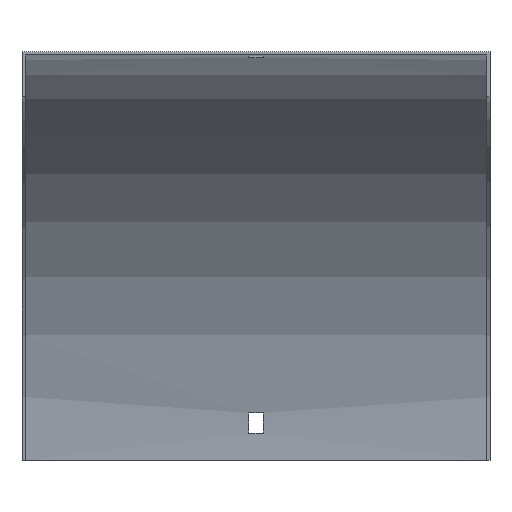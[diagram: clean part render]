
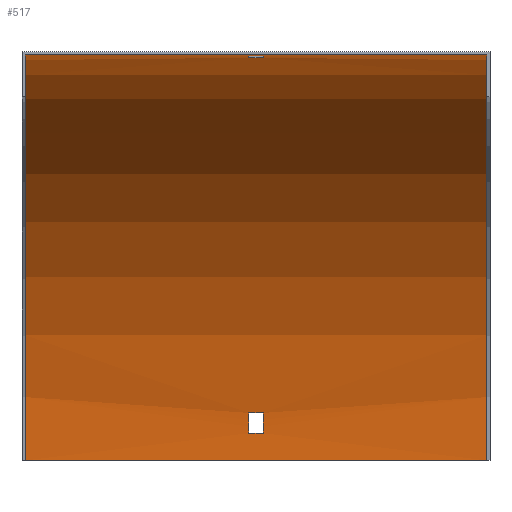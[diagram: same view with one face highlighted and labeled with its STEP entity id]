
A CAD part, top view. The second image highlights one B-rep face of the part: STEP entity #517.
In plain terms, the highlighted cylindrical face has radius 179 mm (diameter 358 mm), a partial arc.
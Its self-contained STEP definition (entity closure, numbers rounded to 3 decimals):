
#4 = VERTEX_POINT ( 'NONE', #291 ) ;
#5 = DIRECTION ( 'NONE',  ( -1., 0., 0. ) ) ;
#13 = CARTESIAN_POINT ( 'NONE',  ( 103.5, -2.736, -21. ) ) ;
#14 = DIRECTION ( 'NONE',  ( 1., 0., 0. ) ) ;
#20 = DIRECTION ( 'NONE',  ( 1., 0., 0. ) ) ;
#25 = EDGE_CURVE ( 'NONE', #247, #4, #342, .T. ) ;
#28 = EDGE_CURVE ( 'NONE', #585, #376, #283, .T. ) ;
#29 = CIRCLE ( 'NONE', #321, 179. ) ;
#36 = DIRECTION ( 'NONE',  ( 0., 0., -1. ) ) ;
#47 = DIRECTION ( 'NONE',  ( 0., 0., 1. ) ) ;
#53 = EDGE_CURVE ( 'NONE', #376, #247, #114, .T. ) ;
#64 = VERTEX_POINT ( 'NONE', #79 ) ;
#67 = CARTESIAN_POINT ( 'NONE',  ( -3.25, -1.903, -12. ) ) ;
#69 = VERTEX_POINT ( 'NONE', #67 ) ;
#70 = DIRECTION ( 'NONE',  ( 0., 0., -1. ) ) ;
#75 = ORIENTED_EDGE ( 'NONE', *, *, #410, .F. ) ;
#78 = ORIENTED_EDGE ( 'NONE', *, *, #583, .F. ) ;
#79 = CARTESIAN_POINT ( 'NONE',  ( 102., -180.5, -179. ) ) ;
#85 = EDGE_CURVE ( 'NONE', #345, #255, #543, .T. ) ;
#87 = ORIENTED_EDGE ( 'NONE', *, *, #28, .T. ) ;
#91 = EDGE_CURVE ( 'NONE', #534, #167, #312, .T. ) ;
#94 = LINE ( 'NONE', #591, #484 ) ;
#97 = FACE_OUTER_BOUND ( 'NONE', #443, .T. ) ;
#98 = CARTESIAN_POINT ( 'NONE',  ( -3.25, -168.5, -178.597 ) ) ;
#110 = AXIS2_PLACEMENT_3D ( 'NONE', #185, #132, #36 ) ;
#114 = LINE ( 'NONE', #257, #159 ) ;
#123 = EDGE_LOOP ( 'NONE', ( #536, #78, #288, #220 ) ) ;
#126 = AXIS2_PLACEMENT_3D ( 'NONE', #491, #20, #70 ) ;
#128 = VERTEX_POINT ( 'NONE', #276 ) ;
#130 = EDGE_CURVE ( 'NONE', #167, #128, #499, .T. ) ;
#132 = DIRECTION ( 'NONE',  ( 1., 0., 0. ) ) ;
#139 = EDGE_LOOP ( 'NONE', ( #161, #347, #168, #87 ) ) ;
#147 = EDGE_CURVE ( 'NONE', #69, #534, #169, .T. ) ;
#153 = DIRECTION ( 'NONE',  ( -1., 0., 0. ) ) ;
#159 = VECTOR ( 'NONE', #153, 1000. ) ;
#161 = ORIENTED_EDGE ( 'NONE', *, *, #53, .T. ) ;
#165 = DIRECTION ( 'NONE',  ( -1., 0., 0. ) ) ;
#167 = VERTEX_POINT ( 'NONE', #596 ) ;
#168 = ORIENTED_EDGE ( 'NONE', *, *, #248, .T. ) ;
#169 = CIRCLE ( 'NONE', #313, 179. ) ;
#175 = EDGE_CURVE ( 'NONE', #64, #345, #330, .T. ) ;
#177 = EDGE_CURVE ( 'NONE', #64, #357, #510, .T. ) ;
#180 = DIRECTION ( 'NONE',  ( -1., 0., 0. ) ) ;
#185 = CARTESIAN_POINT ( 'NONE',  ( 3.25, -180.5, 0. ) ) ;
#200 = CARTESIAN_POINT ( 'NONE',  ( -102., -180.5, 0. ) ) ;
#212 = CARTESIAN_POINT ( 'NONE',  ( 3.25, -180.5, 0. ) ) ;
#219 = LINE ( 'NONE', #407, #565 ) ;
#220 = ORIENTED_EDGE ( 'NONE', *, *, #91, .F. ) ;
#226 = CARTESIAN_POINT ( 'NONE',  ( 102., -180.5, 0. ) ) ;
#230 = CARTESIAN_POINT ( 'NONE',  ( 102., -180.5, -179. ) ) ;
#240 = ORIENTED_EDGE ( 'NONE', *, *, #175, .T. ) ;
#247 = VERTEX_POINT ( 'NONE', #98 ) ;
#248 = EDGE_CURVE ( 'NONE', #4, #585, #219, .T. ) ;
#250 = CARTESIAN_POINT ( 'NONE',  ( 3.25, -168.5, -178.597 ) ) ;
#253 = DIRECTION ( 'NONE',  ( -1., 0., 0. ) ) ;
#255 = VERTEX_POINT ( 'NONE', #317 ) ;
#257 = CARTESIAN_POINT ( 'NONE',  ( 103.5, -168.5, -178.597 ) ) ;
#258 = AXIS2_PLACEMENT_3D ( 'NONE', #212, #165, #496 ) ;
#273 = DIRECTION ( 'NONE',  ( -1., 0., 0. ) ) ;
#276 = CARTESIAN_POINT ( 'NONE',  ( 3.25, -1.903, -12. ) ) ;
#283 = CIRCLE ( 'NONE', #258, 179. ) ;
#288 = ORIENTED_EDGE ( 'NONE', *, *, #130, .F. ) ;
#291 = CARTESIAN_POINT ( 'NONE',  ( -3.25, -159.5, -177.764 ) ) ;
#294 = CARTESIAN_POINT ( 'NONE',  ( 102., -1.5, 0. ) ) ;
#312 = LINE ( 'NONE', #13, #507 ) ;
#313 = AXIS2_PLACEMENT_3D ( 'NONE', #462, #273, #47 ) ;
#317 = CARTESIAN_POINT ( 'NONE',  ( -102., -1.5, 0. ) ) ;
#321 = AXIS2_PLACEMENT_3D ( 'NONE', #200, #14, #382 ) ;
#323 = DIRECTION ( 'NONE',  ( -1., 0., 0. ) ) ;
#330 = CIRCLE ( 'NONE', #468, 179. ) ;
#336 = CARTESIAN_POINT ( 'NONE',  ( -102., -180.5, -179. ) ) ;
#342 = CIRCLE ( 'NONE', #126, 179. ) ;
#345 = VERTEX_POINT ( 'NONE', #294 ) ;
#347 = ORIENTED_EDGE ( 'NONE', *, *, #25, .T. ) ;
#357 = VERTEX_POINT ( 'NONE', #336 ) ;
#364 = ORIENTED_EDGE ( 'NONE', *, *, #177, .F. ) ;
#376 = VERTEX_POINT ( 'NONE', #250 ) ;
#382 = DIRECTION ( 'NONE',  ( 0., 0., 1. ) ) ;
#389 = DIRECTION ( 'NONE',  ( 1., 0., 0. ) ) ;
#397 = CARTESIAN_POINT ( 'NONE',  ( 102., -1.5, 0. ) ) ;
#401 = AXIS2_PLACEMENT_3D ( 'NONE', #424, #5, #514 ) ;
#407 = CARTESIAN_POINT ( 'NONE',  ( 103.5, -159.5, -177.764 ) ) ;
#410 = EDGE_CURVE ( 'NONE', #357, #255, #29, .T. ) ;
#416 = DIRECTION ( 'NONE',  ( 0., 0., 1. ) ) ;
#424 = CARTESIAN_POINT ( 'NONE',  ( 103.5, -180.5, 0. ) ) ;
#443 = EDGE_LOOP ( 'NONE', ( #75, #364, #240, #498 ) ) ;
#461 = DIRECTION ( 'NONE',  ( 1., 0., 0. ) ) ;
#462 = CARTESIAN_POINT ( 'NONE',  ( -3.25, -180.5, 0. ) ) ;
#465 = CARTESIAN_POINT ( 'NONE',  ( -3.25, -2.736, -21. ) ) ;
#467 = FACE_BOUND ( 'NONE', #139, .T. ) ;
#468 = AXIS2_PLACEMENT_3D ( 'NONE', #226, #461, #416 ) ;
#484 = VECTOR ( 'NONE', #180, 1000. ) ;
#491 = CARTESIAN_POINT ( 'NONE',  ( -3.25, -180.5, 0. ) ) ;
#496 = DIRECTION ( 'NONE',  ( 0., 0., 1. ) ) ;
#498 = ORIENTED_EDGE ( 'NONE', *, *, #85, .T. ) ;
#499 = CIRCLE ( 'NONE', #110, 179. ) ;
#505 = CARTESIAN_POINT ( 'NONE',  ( 3.25, -159.5, -177.764 ) ) ;
#507 = VECTOR ( 'NONE', #389, 1000. ) ;
#510 = LINE ( 'NONE', #230, #546 ) ;
#511 = FACE_BOUND ( 'NONE', #123, .T. ) ;
#514 = DIRECTION ( 'NONE',  ( 0., 0., 1. ) ) ;
#517 = ADVANCED_FACE ( 'NONE', ( #511, #97, #467 ), #564, .F. ) ;
#534 = VERTEX_POINT ( 'NONE', #465 ) ;
#536 = ORIENTED_EDGE ( 'NONE', *, *, #147, .F. ) ;
#543 = LINE ( 'NONE', #397, #587 ) ;
#546 = VECTOR ( 'NONE', #323, 1000. ) ;
#548 = DIRECTION ( 'NONE',  ( 1., 0., 0. ) ) ;
#564 = CYLINDRICAL_SURFACE ( 'NONE', #401, 179. ) ;
#565 = VECTOR ( 'NONE', #548, 1000. ) ;
#583 = EDGE_CURVE ( 'NONE', #128, #69, #94, .T. ) ;
#585 = VERTEX_POINT ( 'NONE', #505 ) ;
#587 = VECTOR ( 'NONE', #253, 1000. ) ;
#591 = CARTESIAN_POINT ( 'NONE',  ( 103.5, -1.903, -12. ) ) ;
#596 = CARTESIAN_POINT ( 'NONE',  ( 3.25, -2.736, -21. ) ) ;
